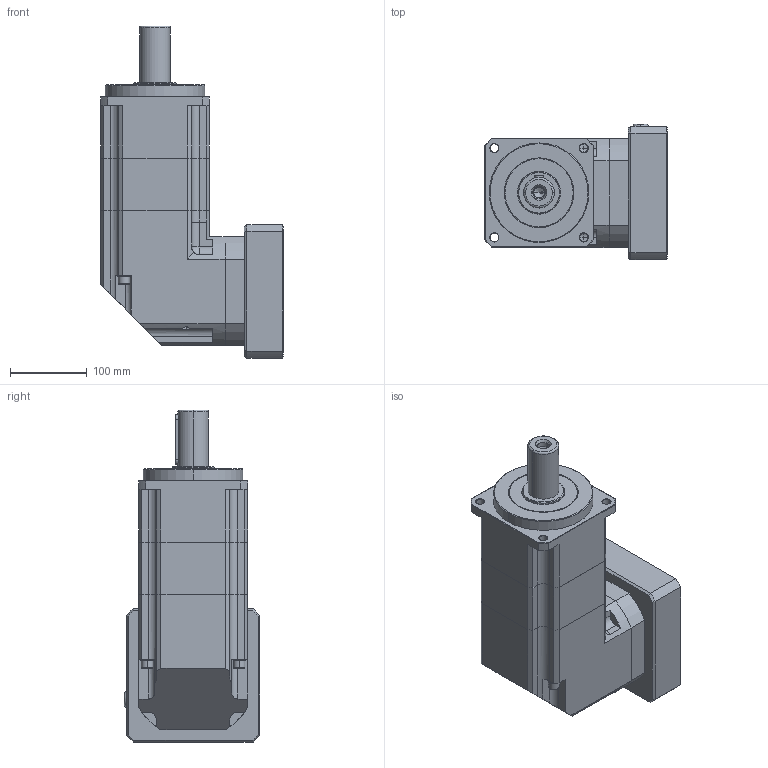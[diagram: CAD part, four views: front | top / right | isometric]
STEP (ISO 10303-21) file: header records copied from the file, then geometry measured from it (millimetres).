
FILE_DESCRIPTION (( 'STEP AP203' ), '1' );
FILE_NAME ('LBR142-(L2)-S2-P2-114200M12.STEP', '2024-11-15T00:33:16', ( '微软用户' ), ( '微软中国' ), 'SwSTEP 2.0', 'SolidWorks 2022', '' );
FILE_SCHEMA (( 'CONFIG_CONTROL_DESIGN' ));
Length unit declared in the file: millimetre
Products named in the file (1): LBR142-(L2)-S2-P2-114200M12
Bounding box: 238.5 x 177 x 433.5 mm (x, y, z)
Volume: 7838280 mm3; surface area: 473678.5 mm2
Topology: 8 solids, 8 shells, 384 faces, 934 edges, 577 vertices
Faces by surface type: plane 178, cylinder 126, cone 59, torus 21
Entity records: 11475 total; most frequent: CARTESIAN_POINT 2325, DIRECTION 1958, ORIENTED_EDGE 1848, EDGE_CURVE 924, AXIS2_PLACEMENT_3D 714, VERTEX_POINT 577, VECTOR 530, LINE 530
